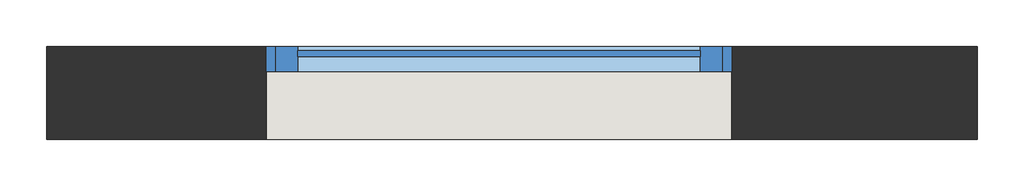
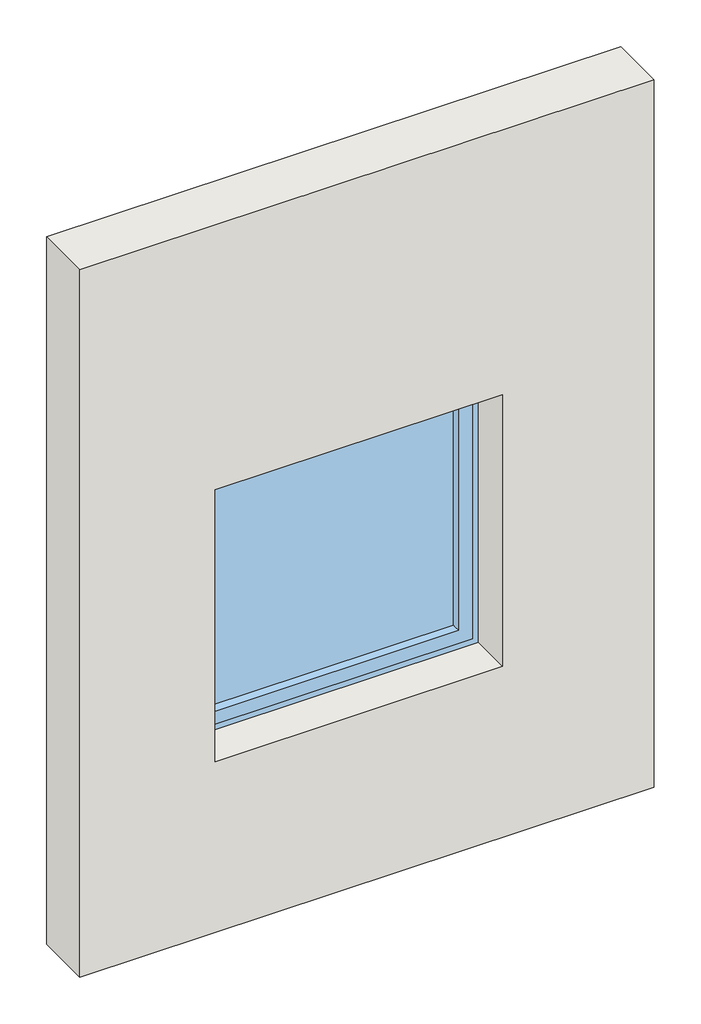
# One storey: 1 wall, 1 window.
"""IFC4 building model written with IfcOpenShell, lengths in millimetres."""

from ifc_helpers import new_model, si_unit, frame, origin, place, context, project, spatial, polyline, outline, extrude, transform, mapped, element, save
from components import window_48ecba2a

model = new_model("IFC4")

# Units and contexts
model_context = context("Model", 3, world=origin())
ifc_project = project(units=[si_unit("LENGTHUNIT", "METRE", prefix="MILLI")], contexts=[model_context])

# Site, building, storey
site = spatial("IfcSite", under=ifc_project)
building = spatial("IfcBuilding", under=site)
storey = spatial("IfcBuildingStorey", under=building, Name="Этаж 01", Elevation=0.0)

# Wall
placement = place(None, origin())
element("IfcWall", 1, ObjectType="Типовой - 200мм", at=placement, inside=storey, context=model_context, shape_type="SweptSolid", body=[
    extrude(outline(polyline([(0.0, 0.0), (0.0, 2000.0), (2603.1870462, 2000.0), (2603.1870462, 0.0), (0.0, 0.0)]), holes=[polyline([(1628.7980764, 471.9337398), (1628.7980764, 1471.9337398), (628.7980764, 1471.9337398), (628.7980764, 471.9337398), (1628.7980764, 471.9337398)])]), frame((0.0, -200.0, 0.0), z_axis=(0.0, 1.0, 0.0), x_axis=(0.0, 0.0, 1.0)), (0.0, 0.0, 1.0), 200.0),
])

# Window
window_shape = window_48ecba2a(model_context)
element("IfcWindow", 2, ObjectType="Окно.Alumark_одностворчатое_S54 : 960х960 (левое-откидное)", at=placement, inside=storey, context=model_context, shape_type="MappedRepresentation", body=[
    mapped(window_shape, transform((971.9337398, -100.0, -271.2019236), x_axis=(1.0, 0.0, 0.0), y_axis=(0.0, 1.0, 0.0), z_axis=(0.0, 0.0, 1.0))),
])

save(model, "model.ifc")
